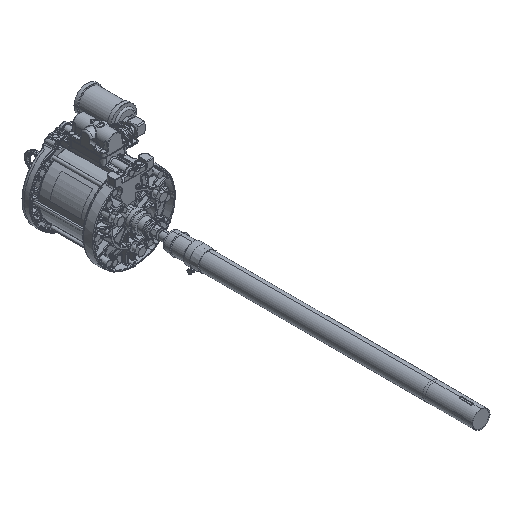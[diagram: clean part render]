
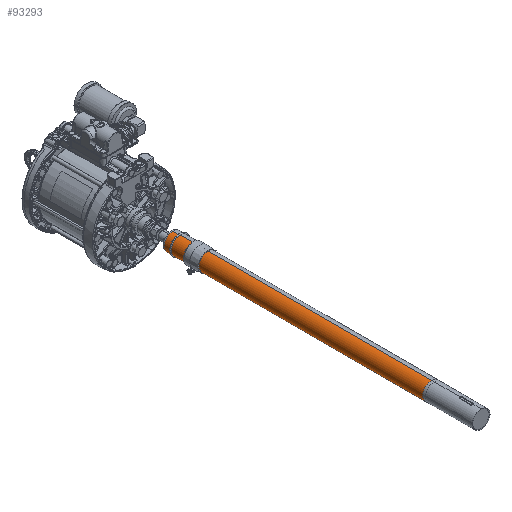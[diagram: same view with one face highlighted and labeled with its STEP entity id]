
A CAD part, isometric view. The second image highlights one B-rep face of the part: STEP entity #93293.
In plain terms, the highlighted cylindrical face has radius 26.988 mm (diameter 53.975 mm), a partial arc.
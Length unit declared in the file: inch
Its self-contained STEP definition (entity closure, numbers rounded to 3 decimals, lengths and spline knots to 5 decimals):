
#93112=DIRECTION('',(0.,1.,0.));
#93113=VECTOR('',#93112,31.1865);
#93114=CARTESIAN_POINT('',(0.,-35.096,21.0625));
#93115=LINE('',#93114,#93113);
#93121=CARTESIAN_POINT('',(0.,-3.9095,20.));
#93122=DIRECTION('',(0.,1.,0.));
#93123=DIRECTION('',(0.,0.,-1.));
#93124=AXIS2_PLACEMENT_3D('',#93121,#93122,#93123);
#93126=CARTESIAN_POINT('',(0.,-3.9095,20.));
#93127=DIRECTION('',(0.,1.,0.));
#93128=DIRECTION('',(-1.,0.,0.));
#93129=AXIS2_PLACEMENT_3D('',#93126,#93127,#93128);
#93131=CARTESIAN_POINT('',(0.,-35.096,20.));
#93132=DIRECTION('',(0.,-1.,0.));
#93133=DIRECTION('',(0.,0.,1.));
#93134=AXIS2_PLACEMENT_3D('',#93131,#93132,#93133);
#93136=DIRECTION('',(0.,1.,0.));
#93137=VECTOR('',#93136,31.1865);
#93138=CARTESIAN_POINT('',(0.,-35.096,18.9375));
#93139=LINE('',#93138,#93137);
#93153=CARTESIAN_POINT('',(0.,-35.096,21.0625));
#93154=CARTESIAN_POINT('',(0.,-35.096,18.9375));
#93155=VERTEX_POINT('',#93153);
#93156=VERTEX_POINT('',#93154);
#93162=CARTESIAN_POINT('',(0.,-3.9095,18.9375));
#93164=VERTEX_POINT('',#93162);
#93165=CARTESIAN_POINT('',(0.,-3.9095,21.0625));
#93166=VERTEX_POINT('',#93165);
#93167=CARTESIAN_POINT('',(-1.0625,-3.9095,20.));
#93168=VERTEX_POINT('',#93167);
#93279=CARTESIAN_POINT('',(0.,-35.096,20.));
#93280=DIRECTION('',(0.,1.,0.));
#93281=DIRECTION('',(0.,0.,1.));
#93282=AXIS2_PLACEMENT_3D('',#93279,#93280,#93281);
#93283=CYLINDRICAL_SURFACE('',#93282,1.0625);
#93284=ORIENTED_EDGE('',*,*,#93257,.T.);
#93286=ORIENTED_EDGE('',*,*,#93285,.T.);
#93287=ORIENTED_EDGE('',*,*,#93272,.F.);
#93289=ORIENTED_EDGE('',*,*,#93288,.T.);
#93290=ORIENTED_EDGE('',*,*,#93268,.T.);
#93291=EDGE_LOOP('',(#93284,#93286,#93287,#93289,#93290));
#93292=FACE_OUTER_BOUND('',#93291,.F.);
#93293=ADVANCED_FACE('',(#93292),#93283,.T.);
#93125=CIRCLE('',#93124,1.0625);
#93130=CIRCLE('',#93129,1.0625);
#93135=CIRCLE('',#93134,1.0625);
#93257=EDGE_CURVE('',#93164,#93168,#93125,.T.);
#93268=EDGE_CURVE('',#93156,#93164,#93139,.T.);
#93272=EDGE_CURVE('',#93155,#93166,#93115,.T.);
#93285=EDGE_CURVE('',#93168,#93166,#93130,.T.);
#93288=EDGE_CURVE('',#93155,#93156,#93135,.T.);
